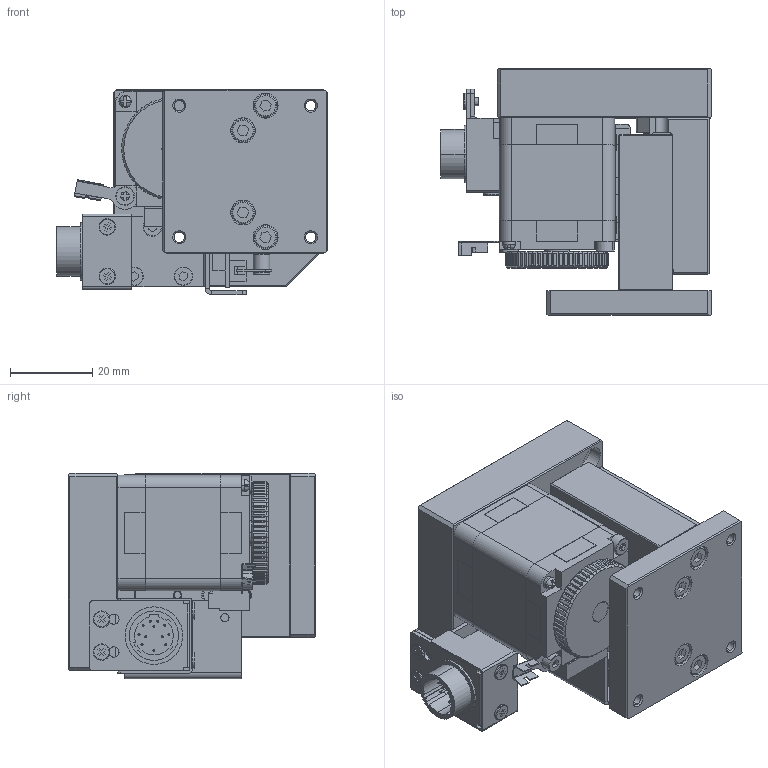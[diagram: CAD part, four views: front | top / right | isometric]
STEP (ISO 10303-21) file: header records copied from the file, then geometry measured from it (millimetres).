
FILE_DESCRIPTION (( 'STEP AP214' ), '1' );
FILE_NAME ('TZS4006-L1-M28.STEP', '2025-01-03T08:49:47', ( '' ), ( '' ), 'SwSTEP 2.0', 'SolidWorks 2020', '' );
FILE_SCHEMA (( 'AUTOMOTIVE_DESIGN' ));
Length unit declared in the file: millimetre
Products named in the file (1): TZS4006-L1-M28
Bounding box: 65.8 x 60 x 50 mm (x, y, z)
Volume: 102277.7 mm3; surface area: 58654.6 mm2
Topology: 96 solids, 96 shells, 2798 faces, 6841 edges, 4291 vertices
Faces by surface type: plane 1355, cylinder 858, cone 318, torus 148, bspline 93, sphere 26
Entity records: 141328 total; most frequent: CARTESIAN_POINT 44040, DIRECTION 13695, ORIENTED_EDGE 13416, EDGE_CURVE 6708, AXIS2_PLACEMENT_3D 4973, VERTEX_POINT 4252, LINE 3749, VECTOR 3749
